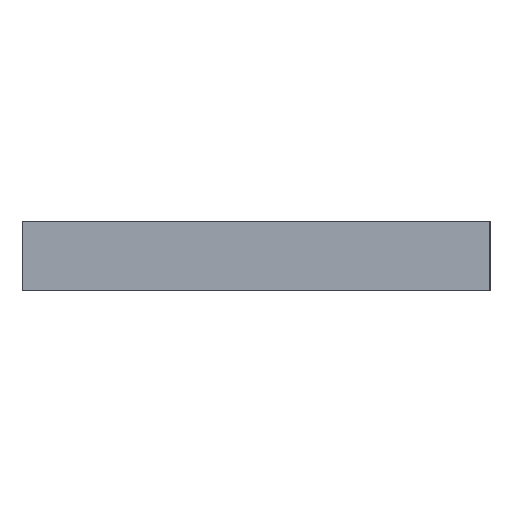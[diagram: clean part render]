
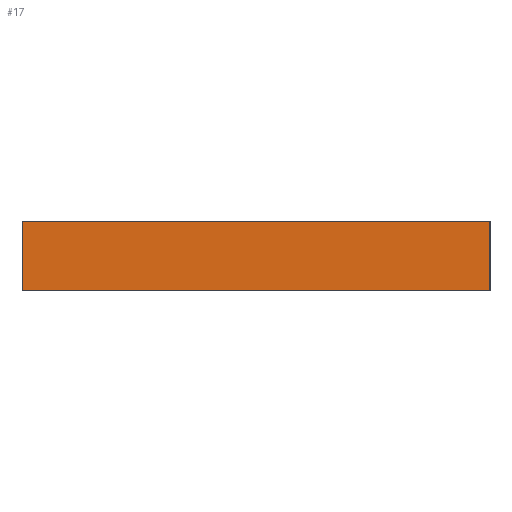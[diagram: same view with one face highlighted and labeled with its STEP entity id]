
A CAD part, left-side view. The second image highlights one B-rep face of the part: STEP entity #17.
In plain terms, the highlighted planar face has unit normal (-1, 0, 0).
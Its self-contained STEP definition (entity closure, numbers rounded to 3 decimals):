
#17 = ADVANCED_FACE('',(#18),#32,.F.);
#18 = FACE_BOUND('',#19,.F.);
#19 = EDGE_LOOP('',(#20,#55,#83,#111));
#20 = ORIENTED_EDGE('',*,*,#21,.F.);
#21 = EDGE_CURVE('',#22,#24,#26,.T.);
#22 = VERTEX_POINT('',#23);
#23 = CARTESIAN_POINT('',(-71.925,-49.5,0.));
#24 = VERTEX_POINT('',#25);
#25 = CARTESIAN_POINT('',(-71.925,-49.5,14.8));
#26 = SURFACE_CURVE('',#27,(#31,#43),.PCURVE_S1.);
#27 = LINE('',#28,#29);
#28 = CARTESIAN_POINT('',(-71.925,-49.5,0.));
#29 = VECTOR('',#30,1.);
#30 = DIRECTION('',(0.,0.,1.));
#31 = PCURVE('',#32,#37);
#32 = PLANE('',#33);
#33 = AXIS2_PLACEMENT_3D('',#34,#35,#36);
#34 = CARTESIAN_POINT('',(-71.925,-49.5,0.));
#35 = DIRECTION('',(1.,0.,-0.));
#36 = DIRECTION('',(0.,0.,1.));
#37 = DEFINITIONAL_REPRESENTATION('',(#38),#42);
#38 = LINE('',#39,#40);
#39 = CARTESIAN_POINT('',(0.,0.));
#40 = VECTOR('',#41,1.);
#41 = DIRECTION('',(1.,0.));
#42 = ( GEOMETRIC_REPRESENTATION_CONTEXT(2) 
PARAMETRIC_REPRESENTATION_CONTEXT() REPRESENTATION_CONTEXT('2D SPACE',''
  ) );
#43 = PCURVE('',#44,#49);
#44 = PLANE('',#45);
#45 = AXIS2_PLACEMENT_3D('',#46,#47,#48);
#46 = CARTESIAN_POINT('',(-71.925,-49.5,0.));
#47 = DIRECTION('',(-0.,1.,0.));
#48 = DIRECTION('',(0.,0.,1.));
#49 = DEFINITIONAL_REPRESENTATION('',(#50),#54);
#50 = LINE('',#51,#52);
#51 = CARTESIAN_POINT('',(0.,0.));
#52 = VECTOR('',#53,1.);
#53 = DIRECTION('',(1.,0.));
#54 = ( GEOMETRIC_REPRESENTATION_CONTEXT(2) 
PARAMETRIC_REPRESENTATION_CONTEXT() REPRESENTATION_CONTEXT('2D SPACE',''
  ) );
#55 = ORIENTED_EDGE('',*,*,#56,.T.);
#56 = EDGE_CURVE('',#22,#57,#59,.T.);
#57 = VERTEX_POINT('',#58);
#58 = CARTESIAN_POINT('',(-71.925,49.5,0.));
#59 = SURFACE_CURVE('',#60,(#64,#71),.PCURVE_S1.);
#60 = LINE('',#61,#62);
#61 = CARTESIAN_POINT('',(-71.925,-49.5,0.));
#62 = VECTOR('',#63,1.);
#63 = DIRECTION('',(-0.,1.,0.));
#64 = PCURVE('',#32,#65);
#65 = DEFINITIONAL_REPRESENTATION('',(#66),#70);
#66 = LINE('',#67,#68);
#67 = CARTESIAN_POINT('',(0.,0.));
#68 = VECTOR('',#69,1.);
#69 = DIRECTION('',(0.,-1.));
#70 = ( GEOMETRIC_REPRESENTATION_CONTEXT(2) 
PARAMETRIC_REPRESENTATION_CONTEXT() REPRESENTATION_CONTEXT('2D SPACE',''
  ) );
#71 = PCURVE('',#72,#77);
#72 = PLANE('',#73);
#73 = AXIS2_PLACEMENT_3D('',#74,#75,#76);
#74 = CARTESIAN_POINT('',(-71.925,-49.5,0.));
#75 = DIRECTION('',(0.,0.,1.));
#76 = DIRECTION('',(1.,0.,-0.));
#77 = DEFINITIONAL_REPRESENTATION('',(#78),#82);
#78 = LINE('',#79,#80);
#79 = CARTESIAN_POINT('',(0.,0.));
#80 = VECTOR('',#81,1.);
#81 = DIRECTION('',(0.,1.));
#82 = ( GEOMETRIC_REPRESENTATION_CONTEXT(2) 
PARAMETRIC_REPRESENTATION_CONTEXT() REPRESENTATION_CONTEXT('2D SPACE',''
  ) );
#83 = ORIENTED_EDGE('',*,*,#84,.T.);
#84 = EDGE_CURVE('',#57,#85,#87,.T.);
#85 = VERTEX_POINT('',#86);
#86 = CARTESIAN_POINT('',(-71.925,49.5,14.8));
#87 = SURFACE_CURVE('',#88,(#92,#99),.PCURVE_S1.);
#88 = LINE('',#89,#90);
#89 = CARTESIAN_POINT('',(-71.925,49.5,0.));
#90 = VECTOR('',#91,1.);
#91 = DIRECTION('',(0.,0.,1.));
#92 = PCURVE('',#32,#93);
#93 = DEFINITIONAL_REPRESENTATION('',(#94),#98);
#94 = LINE('',#95,#96);
#95 = CARTESIAN_POINT('',(0.,-99.));
#96 = VECTOR('',#97,1.);
#97 = DIRECTION('',(1.,0.));
#98 = ( GEOMETRIC_REPRESENTATION_CONTEXT(2) 
PARAMETRIC_REPRESENTATION_CONTEXT() REPRESENTATION_CONTEXT('2D SPACE',''
  ) );
#99 = PCURVE('',#100,#105);
#100 = PLANE('',#101);
#101 = AXIS2_PLACEMENT_3D('',#102,#103,#104);
#102 = CARTESIAN_POINT('',(-71.925,49.5,0.));
#103 = DIRECTION('',(-0.,1.,0.));
#104 = DIRECTION('',(0.,0.,1.));
#105 = DEFINITIONAL_REPRESENTATION('',(#106),#110);
#106 = LINE('',#107,#108);
#107 = CARTESIAN_POINT('',(0.,0.));
#108 = VECTOR('',#109,1.);
#109 = DIRECTION('',(1.,0.));
#110 = ( GEOMETRIC_REPRESENTATION_CONTEXT(2) 
PARAMETRIC_REPRESENTATION_CONTEXT() REPRESENTATION_CONTEXT('2D SPACE',''
  ) );
#111 = ORIENTED_EDGE('',*,*,#112,.F.);
#112 = EDGE_CURVE('',#24,#85,#113,.T.);
#113 = SURFACE_CURVE('',#114,(#118,#125),.PCURVE_S1.);
#114 = LINE('',#115,#116);
#115 = CARTESIAN_POINT('',(-71.925,-49.5,14.8));
#116 = VECTOR('',#117,1.);
#117 = DIRECTION('',(-0.,1.,0.));
#118 = PCURVE('',#32,#119);
#119 = DEFINITIONAL_REPRESENTATION('',(#120),#124);
#120 = LINE('',#121,#122);
#121 = CARTESIAN_POINT('',(14.8,0.));
#122 = VECTOR('',#123,1.);
#123 = DIRECTION('',(0.,-1.));
#124 = ( GEOMETRIC_REPRESENTATION_CONTEXT(2) 
PARAMETRIC_REPRESENTATION_CONTEXT() REPRESENTATION_CONTEXT('2D SPACE',''
  ) );
#125 = PCURVE('',#126,#131);
#126 = PLANE('',#127);
#127 = AXIS2_PLACEMENT_3D('',#128,#129,#130);
#128 = CARTESIAN_POINT('',(-71.925,-49.5,14.8));
#129 = DIRECTION('',(0.,0.,1.));
#130 = DIRECTION('',(1.,0.,-0.));
#131 = DEFINITIONAL_REPRESENTATION('',(#132),#136);
#132 = LINE('',#133,#134);
#133 = CARTESIAN_POINT('',(0.,0.));
#134 = VECTOR('',#135,1.);
#135 = DIRECTION('',(0.,1.));
#136 = ( GEOMETRIC_REPRESENTATION_CONTEXT(2) 
PARAMETRIC_REPRESENTATION_CONTEXT() REPRESENTATION_CONTEXT('2D SPACE',''
  ) );
